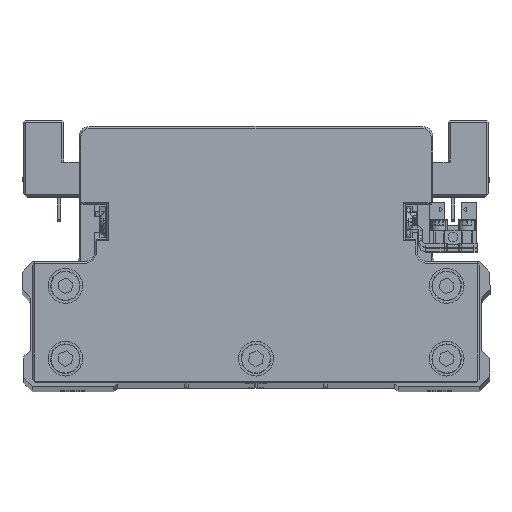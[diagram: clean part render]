
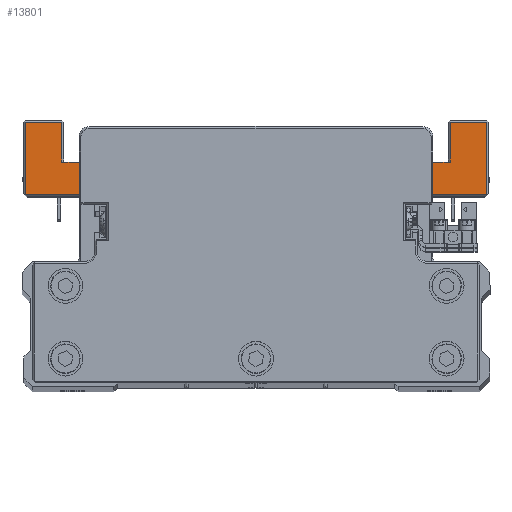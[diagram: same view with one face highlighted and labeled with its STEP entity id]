
A CAD part, top view. The second image highlights one B-rep face of the part: STEP entity #13801.
In plain terms, the highlighted planar face has unit normal (0, 0, 1) as drawn and (0, -1, 0) by its records, which use the part's own axes.
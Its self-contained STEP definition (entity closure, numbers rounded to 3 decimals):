
#201 = DIRECTION ( 'NONE',  ( -0.991, 0., 0.132 ) ) ;
#659 = CARTESIAN_POINT ( 'NONE',  ( 0., -45., 0. ) ) ;
#678 = CARTESIAN_POINT ( 'NONE',  ( -66.5, -45., -43. ) ) ;
#879 = CARTESIAN_POINT ( 'NONE',  ( 46., -45., -52.5 ) ) ;
#1725 = VECTOR ( 'NONE', #201, 1000. ) ;
#1907 = VERTEX_POINT ( 'NONE', #10221 ) ;
#2323 = CARTESIAN_POINT ( 'NONE',  ( -77.786, -45., -42.5 ) ) ;
#2782 = DIRECTION ( 'NONE',  ( 0., 0., -1. ) ) ;
#3041 = CARTESIAN_POINT ( 'NONE',  ( 56., -45., -64.5 ) ) ;
#3460 = LINE ( 'NONE', #15786, #13916 ) ;
#3517 = VECTOR ( 'NONE', #5774, 1000. ) ;
#3534 = LINE ( 'NONE', #15865, #22008 ) ;
#4039 = LINE ( 'NONE', #16356, #33775 ) ;
#4183 = EDGE_CURVE ( 'NONE', #28310, #20879, #24027, .T. ) ;
#4304 = DIRECTION ( 'NONE',  ( -1., 0., 0. ) ) ;
#4922 = EDGE_CURVE ( 'NONE', #28150, #21276, #15580, .T. ) ;
#5057 = VECTOR ( 'NONE', #15379, 1000. ) ;
#5248 = CARTESIAN_POINT ( 'NONE',  ( -40.066, -45., -43. ) ) ;
#5348 = CARTESIAN_POINT ( 'NONE',  ( -56., -45., -52.5 ) ) ;
#5561 = DIRECTION ( 'NONE',  ( 0., 0., 1. ) ) ;
#5774 = DIRECTION ( 'NONE',  ( 1., 0., 0. ) ) ;
#6173 = VERTEX_POINT ( 'NONE', #18020 ) ;
#6595 = VERTEX_POINT ( 'NONE', #5248 ) ;
#6915 = DIRECTION ( 'NONE',  ( 0., 0., -1. ) ) ;
#7069 = DIRECTION ( 'NONE',  ( -0.991, 0., -0.132 ) ) ;
#7152 = EDGE_CURVE ( 'NONE', #31926, #27171, #19641, .T. ) ;
#7307 = EDGE_CURVE ( 'NONE', #8933, #32091, #39236, .T. ) ;
#7349 = ORIENTED_EDGE ( 'NONE', *, *, #23796, .T. ) ;
#7554 = CARTESIAN_POINT ( 'NONE',  ( -46., -45., -52.5 ) ) ;
#7578 = VECTOR ( 'NONE', #36561, 1000. ) ;
#8634 = CIRCLE ( 'NONE', #31227, 1.5 ) ;
#8680 = DIRECTION ( 'NONE',  ( -1., 0., 0. ) ) ;
#8933 = VERTEX_POINT ( 'NONE', #35127 ) ;
#9036 = ORIENTED_EDGE ( 'NONE', *, *, #25160, .T. ) ;
#9200 = LINE ( 'NONE', #21508, #25137 ) ;
#10195 = ORIENTED_EDGE ( 'NONE', *, *, #13156, .F. ) ;
#10221 = CARTESIAN_POINT ( 'NONE',  ( 56., -45., -52.5 ) ) ;
#10267 = VECTOR ( 'NONE', #11484, 1000. ) ;
#11399 = EDGE_CURVE ( 'NONE', #18839, #20879, #3460, .T. ) ;
#11484 = DIRECTION ( 'NONE',  ( -1., 0., 0. ) ) ;
#11557 = CARTESIAN_POINT ( 'NONE',  ( 46., -45., -54. ) ) ;
#11924 = LINE ( 'NONE', #24247, #7578 ) ;
#12385 = ORIENTED_EDGE ( 'NONE', *, *, #35990, .T. ) ;
#12528 = CARTESIAN_POINT ( 'NONE',  ( 46., -45., -54. ) ) ;
#12700 = ORIENTED_EDGE ( 'NONE', *, *, #23890, .T. ) ;
#12987 = DIRECTION ( 'NONE',  ( 0., -1., 0. ) ) ;
#13156 = EDGE_CURVE ( 'NONE', #1907, #39028, #4039, .T. ) ;
#13220 = DIRECTION ( 'NONE',  ( 0., 0., -1. ) ) ;
#13801 = ADVANCED_FACE ( 'NONE', ( #16025 ), #28326, .T. ) ;
#13916 = VECTOR ( 'NONE', #28089, 1000. ) ;
#14281 = EDGE_CURVE ( 'NONE', #17296, #21806, #22415, .T. ) ;
#14286 = VERTEX_POINT ( 'NONE', #19384 ) ;
#14613 = VECTOR ( 'NONE', #4304, 1000. ) ;
#14660 = DIRECTION ( 'NONE',  ( -1., 0., 0. ) ) ;
#15379 = DIRECTION ( 'NONE',  ( 0., 0., -1. ) ) ;
#15580 = LINE ( 'NONE', #27877, #1725 ) ;
#15786 = CARTESIAN_POINT ( 'NONE',  ( -56., -45., -52.5 ) ) ;
#15865 = CARTESIAN_POINT ( 'NONE',  ( -46., -45., -52.5 ) ) ;
#16025 = FACE_OUTER_BOUND ( 'NONE', #28038, .T. ) ;
#16356 = CARTESIAN_POINT ( 'NONE',  ( 55.5, -45., -52.5 ) ) ;
#17266 = ORIENTED_EDGE ( 'NONE', *, *, #32029, .T. ) ;
#17296 = VERTEX_POINT ( 'NONE', #39304 ) ;
#17504 = ORIENTED_EDGE ( 'NONE', *, *, #23743, .T. ) ;
#17559 = EDGE_CURVE ( 'NONE', #39028, #32091, #28559, .T. ) ;
#18020 = CARTESIAN_POINT ( 'NONE',  ( 56., -45., -64. ) ) ;
#18142 = CARTESIAN_POINT ( 'NONE',  ( 40.066, -45., -41.5 ) ) ;
#18839 = VERTEX_POINT ( 'NONE', #21967 ) ;
#18979 = AXIS2_PLACEMENT_3D ( 'NONE', #659, #12987, #25299 ) ;
#19384 = CARTESIAN_POINT ( 'NONE',  ( -66.5, -45., -64. ) ) ;
#19641 = LINE ( 'NONE', #31990, #14613 ) ;
#20879 = VERTEX_POINT ( 'NONE', #5348 ) ;
#20897 = LINE ( 'NONE', #33240, #38341 ) ;
#21043 = VECTOR ( 'NONE', #23877, 1000. ) ;
#21092 = LINE ( 'NONE', #33446, #3517 ) ;
#21276 = VERTEX_POINT ( 'NONE', #26701 ) ;
#21456 = ORIENTED_EDGE ( 'NONE', *, *, #28104, .F. ) ;
#21508 = CARTESIAN_POINT ( 'NONE',  ( 67., -45., -64. ) ) ;
#21806 = VERTEX_POINT ( 'NONE', #39589 ) ;
#21967 = CARTESIAN_POINT ( 'NONE',  ( -56., -45., -64. ) ) ;
#22008 = VECTOR ( 'NONE', #28170, 1000. ) ;
#22219 = AXIS2_PLACEMENT_3D ( 'NONE', #22260, #34584, #6915 ) ;
#22260 = CARTESIAN_POINT ( 'NONE',  ( -40.066, -45., -41.5 ) ) ;
#22415 = LINE ( 'NONE', #34743, #34481 ) ;
#22951 = ORIENTED_EDGE ( 'NONE', *, *, #14281, .T. ) ;
#23376 = EDGE_CURVE ( 'NONE', #27171, #28150, #8634, .T. ) ;
#23716 = EDGE_CURVE ( 'NONE', #21276, #17296, #30010, .T. ) ;
#23743 = EDGE_CURVE ( 'NONE', #23775, #31926, #20897, .T. ) ;
#23775 = VERTEX_POINT ( 'NONE', #36455 ) ;
#23796 = EDGE_CURVE ( 'NONE', #14286, #18839, #21092, .T. ) ;
#23877 = DIRECTION ( 'NONE',  ( 1., 0., 0. ) ) ;
#23890 = EDGE_CURVE ( 'NONE', #21806, #6595, #39639, .T. ) ;
#24027 = LINE ( 'NONE', #36338, #33944 ) ;
#24098 = ORIENTED_EDGE ( 'NONE', *, *, #4922, .T. ) ;
#24247 = CARTESIAN_POINT ( 'NONE',  ( -66.5, -45., -64.5 ) ) ;
#24918 = CARTESIAN_POINT ( 'NONE',  ( 46., -45., -52.5 ) ) ;
#25137 = VECTOR ( 'NONE', #33851, 1000. ) ;
#25160 = EDGE_CURVE ( 'NONE', #1907, #6173, #30718, .T. ) ;
#25299 = DIRECTION ( 'NONE',  ( 0., 0., -1. ) ) ;
#25325 = ORIENTED_EDGE ( 'NONE', *, *, #11399, .T. ) ;
#25342 = CARTESIAN_POINT ( 'NONE',  ( 39.868, -45., -42.987 ) ) ;
#26678 = ORIENTED_EDGE ( 'NONE', *, *, #17559, .F. ) ;
#26701 = CARTESIAN_POINT ( 'NONE',  ( 36.217, -45., -42.5 ) ) ;
#26824 = LINE ( 'NONE', #39157, #10267 ) ;
#26862 = CARTESIAN_POINT ( 'NONE',  ( 66.5, -45., -43. ) ) ;
#27171 = VERTEX_POINT ( 'NONE', #32675 ) ;
#27877 = CARTESIAN_POINT ( 'NONE',  ( 25.802, -45., -41.111 ) ) ;
#28038 = EDGE_LOOP ( 'NONE', ( #30168, #22951, #12700, #34272, #17266, #7349, #25325, #37595, #21456, #28202, #26678, #10195, #9036, #12385, #17504, #34915, #31853, #24098 ) ) ;
#28089 = DIRECTION ( 'NONE',  ( 0., 0., 1. ) ) ;
#28104 = EDGE_CURVE ( 'NONE', #8933, #28310, #3534, .T. ) ;
#28150 = VERTEX_POINT ( 'NONE', #25342 ) ;
#28170 = DIRECTION ( 'NONE',  ( 0., 0., 1. ) ) ;
#28202 = ORIENTED_EDGE ( 'NONE', *, *, #7307, .T. ) ;
#28310 = VERTEX_POINT ( 'NONE', #7554 ) ;
#28326 = PLANE ( 'NONE',  #18979 ) ;
#28559 = LINE ( 'NONE', #879, #30989 ) ;
#28666 = DIRECTION ( 'NONE',  ( -1., 0., 0. ) ) ;
#30010 = LINE ( 'NONE', #2323, #33182 ) ;
#30168 = ORIENTED_EDGE ( 'NONE', *, *, #23716, .T. ) ;
#30468 = DIRECTION ( 'NONE',  ( 0., 1., 0. ) ) ;
#30718 = LINE ( 'NONE', #3041, #5057 ) ;
#30989 = VECTOR ( 'NONE', #13220, 1000. ) ;
#31227 = AXIS2_PLACEMENT_3D ( 'NONE', #18142, #30468, #2782 ) ;
#31853 = ORIENTED_EDGE ( 'NONE', *, *, #23376, .T. ) ;
#31926 = VERTEX_POINT ( 'NONE', #26862 ) ;
#31990 = CARTESIAN_POINT ( 'NONE',  ( 40.066, -45., -43. ) ) ;
#32029 = EDGE_CURVE ( 'NONE', #34883, #14286, #11924, .T. ) ;
#32091 = VERTEX_POINT ( 'NONE', #12528 ) ;
#32675 = CARTESIAN_POINT ( 'NONE',  ( 40.066, -45., -43. ) ) ;
#33182 = VECTOR ( 'NONE', #14660, 1000. ) ;
#33240 = CARTESIAN_POINT ( 'NONE',  ( 66.5, -45., -43.5 ) ) ;
#33446 = CARTESIAN_POINT ( 'NONE',  ( -55.5, -45., -64. ) ) ;
#33752 = EDGE_CURVE ( 'NONE', #6595, #34883, #26824, .T. ) ;
#33775 = VECTOR ( 'NONE', #28666, 1000. ) ;
#33851 = DIRECTION ( 'NONE',  ( 1., 0., 0. ) ) ;
#33944 = VECTOR ( 'NONE', #8680, 1000. ) ;
#34272 = ORIENTED_EDGE ( 'NONE', *, *, #33752, .T. ) ;
#34481 = VECTOR ( 'NONE', #7069, 1000. ) ;
#34584 = DIRECTION ( 'NONE',  ( 0., 1., 0. ) ) ;
#34743 = CARTESIAN_POINT ( 'NONE',  ( -39.868, -45., -42.987 ) ) ;
#34883 = VERTEX_POINT ( 'NONE', #678 ) ;
#34915 = ORIENTED_EDGE ( 'NONE', *, *, #7152, .T. ) ;
#35127 = CARTESIAN_POINT ( 'NONE',  ( -46., -45., -54. ) ) ;
#35990 = EDGE_CURVE ( 'NONE', #6173, #23775, #9200, .T. ) ;
#36338 = CARTESIAN_POINT ( 'NONE',  ( -55.5, -45., -52.5 ) ) ;
#36455 = CARTESIAN_POINT ( 'NONE',  ( 66.5, -45., -64. ) ) ;
#36561 = DIRECTION ( 'NONE',  ( 0., 0., -1. ) ) ;
#37595 = ORIENTED_EDGE ( 'NONE', *, *, #4183, .F. ) ;
#38341 = VECTOR ( 'NONE', #5561, 1000. ) ;
#39028 = VERTEX_POINT ( 'NONE', #24918 ) ;
#39157 = CARTESIAN_POINT ( 'NONE',  ( -66., -45., -43. ) ) ;
#39236 = LINE ( 'NONE', #11557, #21043 ) ;
#39304 = CARTESIAN_POINT ( 'NONE',  ( -36.217, -45., -42.5 ) ) ;
#39589 = CARTESIAN_POINT ( 'NONE',  ( -39.868, -45., -42.987 ) ) ;
#39639 = CIRCLE ( 'NONE', #22219, 1.5 ) ;
